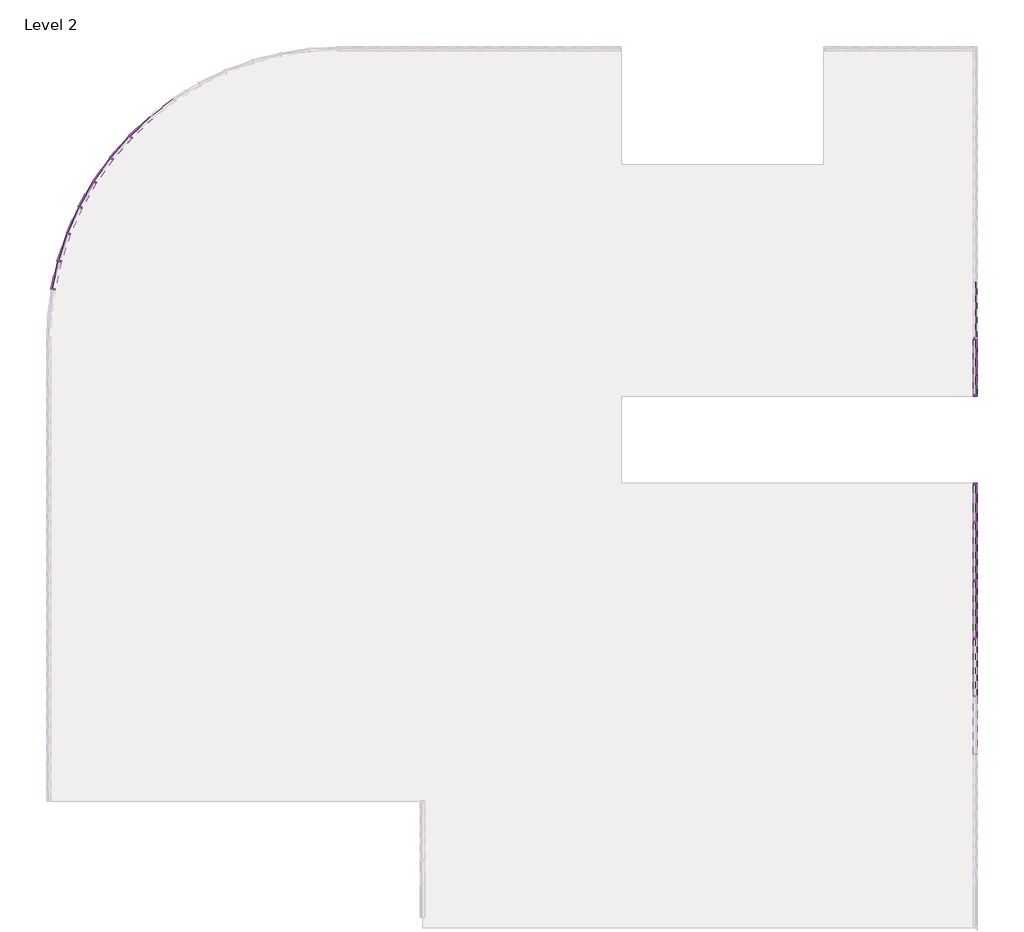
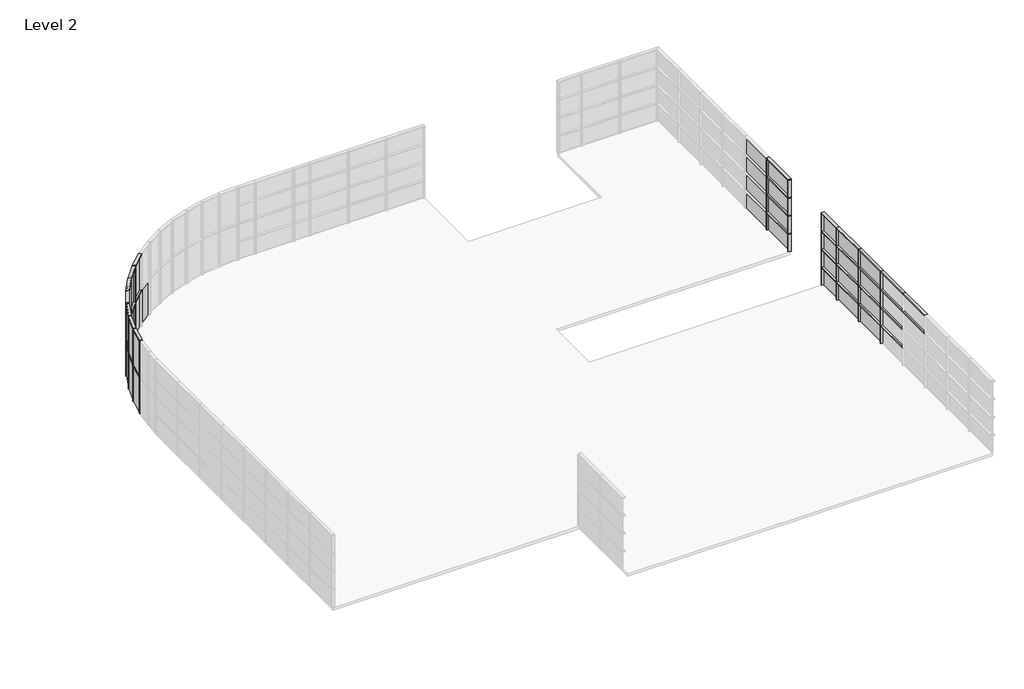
# One storey, part 4 of 6: 74 members, 35 plates.
"""IFC4 building model written with IfcOpenShell, lengths in millimetres."""

from ifc_helpers import new_model, si_unit, origin, place, context, project, spatial, transform, mapped, element, save
from components import rectangular_mullion_50_x_150mm_a053b0ca, rectangular_mullion_50_x_150mm_3a148f0f, rectangular_mullion_50_x_150mm_12a430f9, rectangular_mullion_50_x_150mm_25f32059, rectangular_mullion_50_x_150mm_5fc4eb71, system_panel_glazed_751a585c, system_panel_glazed_08de6f5f, system_panel_glazed_b9387e44, system_panel_glazed_8ec8f306

model = new_model("IFC4")

# Units and contexts
model_context = context("Model", 3, world=origin())
ifc_project = project(units=[si_unit("LENGTHUNIT", "METRE", prefix="MILLI")], contexts=[model_context])

# Site, building, storey
site = spatial("IfcSite", under=ifc_project)
building = spatial("IfcBuilding", under=site)
storey = spatial("IfcBuildingStorey", under=building, Name="Level 2", Elevation=4000.0)

# Members
placement = place(None, origin())
rectangular_mullion_50_x_150mm_shape = rectangular_mullion_50_x_150mm_a053b0ca(model_context)
element("IfcMember", 1, ObjectType="Rectangular Mullion : 50 x 150mm", at=placement, inside=storey, context=model_context, shape_type="MappedRepresentation", body=[
    mapped(rectangular_mullion_50_x_150mm_shape, transform((13503.2660975, -1624.0160434, 6025.0), x_axis=(0.0, 1.0, 0.0), y_axis=(1.0, 0.0, 0.0), z_axis=(0.0, 0.0, -0.9999999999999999))),
])
element("IfcMember", 2, ObjectType="Rectangular Mullion : 50 x 150mm", at=placement, inside=storey, context=model_context, shape_type="MappedRepresentation", body=[
    mapped(rectangular_mullion_50_x_150mm_shape, transform((13503.2660975, -1624.0160434, 7025.0), x_axis=(0.0, 1.0, 0.0), y_axis=(1.0, 0.0, 0.0), z_axis=(0.0, 0.0, -1.0))),
])
element("IfcMember", 3, ObjectType="Rectangular Mullion : 50 x 150mm", at=placement, inside=storey, context=model_context, shape_type="MappedRepresentation", body=[
    mapped(rectangular_mullion_50_x_150mm_shape, transform((13503.2660975, -1624.0160434, 4025.0), x_axis=(0.0, 1.0, 0.0), y_axis=(1.0, 0.0, 0.0), z_axis=(0.0, 0.0, -1.0))),
])
element("IfcMember", 4, ObjectType="Rectangular Mullion : 50 x 150mm", at=placement, inside=storey, context=model_context, shape_type="MappedRepresentation", body=[
    mapped(rectangular_mullion_50_x_150mm_shape, transform((13503.2660975, -1624.0160434, 5025.0), x_axis=(0.0, 1.0, 0.0), y_axis=(1.0, 0.0, 0.0), z_axis=(0.0, 0.0, -0.9999999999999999))),
])
element("IfcMember", 5, ObjectType="Rectangular Mullion : 50 x 150mm", at=placement, inside=storey, context=model_context, shape_type="MappedRepresentation", body=[
    mapped(rectangular_mullion_50_x_150mm_shape, transform((13503.2660975, -11988.7417365, 4025.0), x_axis=(0.0, 1.0, 0.0), y_axis=(1.0, 0.0, 0.0), z_axis=(0.0, 0.0, -1.0))),
])
element("IfcMember", 6, ObjectType="Rectangular Mullion : 50 x 150mm", at=placement, inside=storey, context=model_context, shape_type="MappedRepresentation", body=[
    mapped(rectangular_mullion_50_x_150mm_shape, transform((13503.2660975, -11988.7417365, 5025.0), x_axis=(0.0, 1.0, 0.0), y_axis=(1.0, 0.0, 0.0), z_axis=(0.0, 0.0, -0.9999999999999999))),
])
element("IfcMember", 7, ObjectType="Rectangular Mullion : 50 x 150mm", at=placement, inside=storey, context=model_context, shape_type="MappedRepresentation", body=[
    mapped(rectangular_mullion_50_x_150mm_shape, transform((13503.2660975, -11988.7417365, 6025.0), x_axis=(0.0, 1.0, 0.0), y_axis=(1.0, 0.0, 0.0), z_axis=(0.0, 0.0, -0.9999999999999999))),
])
element("IfcMember", 8, ObjectType="Rectangular Mullion : 50 x 150mm", at=placement, inside=storey, context=model_context, shape_type="MappedRepresentation", body=[
    mapped(rectangular_mullion_50_x_150mm_shape, transform((13503.2660975, -11988.7417365, 7025.0), x_axis=(0.0, 1.0, 0.0), y_axis=(1.0, 0.0, 0.0), z_axis=(0.0, 0.0, -1.0))),
])
element("IfcMember", 9, ObjectType="Rectangular Mullion : 50 x 150mm", at=placement, inside=storey, context=model_context, shape_type="MappedRepresentation", body=[
    mapped(rectangular_mullion_50_x_150mm_shape, transform((13503.2660975, -9988.7417365, 4025.0), x_axis=(0.0, 1.0, 0.0), y_axis=(1.0, 0.0, 0.0), z_axis=(0.0, 0.0, -1.0))),
])
element("IfcMember", 10, ObjectType="Rectangular Mullion : 50 x 150mm", at=placement, inside=storey, context=model_context, shape_type="MappedRepresentation", body=[
    mapped(rectangular_mullion_50_x_150mm_shape, transform((13503.2660975, -9988.7417365, 5025.0), x_axis=(0.0, 1.0, 0.0), y_axis=(1.0, 0.0, 0.0), z_axis=(0.0, 0.0, -0.9999999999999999))),
])
element("IfcMember", 11, ObjectType="Rectangular Mullion : 50 x 150mm", at=placement, inside=storey, context=model_context, shape_type="MappedRepresentation", body=[
    mapped(rectangular_mullion_50_x_150mm_shape, transform((13503.2660975, -9988.7417365, 6025.0), x_axis=(0.0, 1.0, 0.0), y_axis=(1.0, 0.0, 0.0), z_axis=(0.0, 0.0, -0.9999999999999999))),
])
element("IfcMember", 12, ObjectType="Rectangular Mullion : 50 x 150mm", at=placement, inside=storey, context=model_context, shape_type="MappedRepresentation", body=[
    mapped(rectangular_mullion_50_x_150mm_shape, transform((13503.2660975, -9988.7417365, 7025.0), x_axis=(0.0, 1.0, 0.0), y_axis=(1.0, 0.0, 0.0), z_axis=(0.0, 0.0, -1.0))),
])
element("IfcMember", 13, ObjectType="Rectangular Mullion : 50 x 150mm", at=placement, inside=storey, context=model_context, shape_type="MappedRepresentation", body=[
    mapped(rectangular_mullion_50_x_150mm_shape, transform((13503.2660975, -7988.7417365, 4025.0), x_axis=(0.0, 1.0, 0.0), y_axis=(1.0, 0.0, 0.0), z_axis=(0.0, 0.0, -1.0))),
])
element("IfcMember", 14, ObjectType="Rectangular Mullion : 50 x 150mm", at=placement, inside=storey, context=model_context, shape_type="MappedRepresentation", body=[
    mapped(rectangular_mullion_50_x_150mm_shape, transform((13503.2660975, -7988.7417365, 5025.0), x_axis=(0.0, 1.0, 0.0), y_axis=(1.0, 0.0, 0.0), z_axis=(0.0, 0.0, -0.9999999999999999))),
])
element("IfcMember", 15, ObjectType="Rectangular Mullion : 50 x 150mm", at=placement, inside=storey, context=model_context, shape_type="MappedRepresentation", body=[
    mapped(rectangular_mullion_50_x_150mm_shape, transform((13503.2660975, -7988.7417365, 6025.0), x_axis=(0.0, 1.0, 0.0), y_axis=(1.0, 0.0, 0.0), z_axis=(0.0, 0.0, -0.9999999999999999))),
])
element("IfcMember", 16, ObjectType="Rectangular Mullion : 50 x 150mm", at=placement, inside=storey, context=model_context, shape_type="MappedRepresentation", body=[
    mapped(rectangular_mullion_50_x_150mm_shape, transform((13503.2660975, -7988.7417365, 7025.0), x_axis=(0.0, 1.0, 0.0), y_axis=(1.0, 0.0, 0.0), z_axis=(0.0, 0.0, -1.0))),
])
rectangular_mullion_50_x_150mm_2_shape = rectangular_mullion_50_x_150mm_3a148f0f(model_context)
element("IfcMember", 17, ObjectType="Rectangular Mullion : 50 x 150mm", at=placement, inside=storey, context=model_context, shape_type="MappedRepresentation", body=[
    mapped(rectangular_mullion_50_x_150mm_2_shape, transform((13503.2660975, -1624.0160434, 5000.0), x_axis=(0.0, 0.0, 1.0), y_axis=(1.0, 0.0, 0.0), z_axis=(0.0, 1.0, 0.0))),
])
element("IfcMember", 18, ObjectType="Rectangular Mullion : 50 x 150mm", at=placement, inside=storey, context=model_context, shape_type="MappedRepresentation", body=[
    mapped(rectangular_mullion_50_x_150mm_2_shape, transform((13503.2660975, -1624.0160434, 6000.0), x_axis=(0.0, 0.0, 1.0), y_axis=(1.0, 0.0, 0.0), z_axis=(0.0, 0.9999999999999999, 0.0))),
])
element("IfcMember", 19, ObjectType="Rectangular Mullion : 50 x 150mm", at=placement, inside=storey, context=model_context, shape_type="MappedRepresentation", body=[
    mapped(rectangular_mullion_50_x_150mm_2_shape, transform((13503.2660975, -1624.0160434, 7000.0), x_axis=(0.0, 0.0, 1.0), y_axis=(1.0, 0.0, 0.0), z_axis=(0.0, 0.9999999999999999, 0.0))),
])
element("IfcMember", 20, ObjectType="Rectangular Mullion : 50 x 150mm", at=placement, inside=storey, context=model_context, shape_type="MappedRepresentation", body=[
    mapped(rectangular_mullion_50_x_150mm_2_shape, transform((13503.2660975, -1624.0160434, 8000.0), x_axis=(0.0, 0.0, 1.0), y_axis=(1.0, 0.0, 0.0), z_axis=(0.0, 1.0, 0.0))),
])
element("IfcMember", 21, ObjectType="Rectangular Mullion : 50 x 150mm", at=placement, inside=storey, context=model_context, shape_type="MappedRepresentation", body=[
    mapped(rectangular_mullion_50_x_150mm_2_shape, transform((-15672.6193842, 5340.6567811, 4000.0), x_axis=(-0.6964672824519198, -0.7175885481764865, 0.0), y_axis=(-0.7175885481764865, 0.6964672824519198, 0.0), z_axis=(0.0, 0.0, -1.0))),
])
element("IfcMember", 22, ObjectType="Rectangular Mullion : 50 x 150mm", at=placement, inside=storey, context=model_context, shape_type="MappedRepresentation", body=[
    mapped(rectangular_mullion_50_x_150mm_2_shape, transform((-15672.6193842, 5340.6567811, 6000.0), x_axis=(-0.6964672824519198, -0.7175885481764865, 0.0), y_axis=(-0.7175885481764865, 0.6964672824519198, 0.0), z_axis=(0.0, 0.0, -1.0))),
])
element("IfcMember", 23, ObjectType="Rectangular Mullion : 50 x 150mm", at=placement, inside=storey, context=model_context, shape_type="MappedRepresentation", body=[
    mapped(rectangular_mullion_50_x_150mm_2_shape, transform((-16332.3361104, 4589.1424158, 4000.0), x_axis=(-0.6213158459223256, -0.7835602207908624, 0.0), y_axis=(-0.7835602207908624, 0.6213158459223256, 0.0), z_axis=(0.0, 0.0, -1.0))),
])
element("IfcMember", 24, ObjectType="Rectangular Mullion : 50 x 150mm", at=placement, inside=storey, context=model_context, shape_type="MappedRepresentation", body=[
    mapped(rectangular_mullion_50_x_150mm_2_shape, transform((-16332.3361104, 4589.1424158, 6000.0), x_axis=(-0.6213158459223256, -0.7835602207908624, 0.0), y_axis=(-0.7835602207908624, 0.6213158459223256, 0.0), z_axis=(0.0, 0.0, -1.0))),
])
element("IfcMember", 25, ObjectType="Rectangular Mullion : 50 x 150mm", at=placement, inside=storey, context=model_context, shape_type="MappedRepresentation", body=[
    mapped(rectangular_mullion_50_x_150mm_2_shape, transform((-16913.6968144, 3775.4964659, 4000.0), x_axis=(-0.5399512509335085, -0.8416962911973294, 0.0), y_axis=(-0.8416962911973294, 0.5399512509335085, 0.0), z_axis=(0.0, 0.0, -1.0))),
])
element("IfcMember", 26, ObjectType="Rectangular Mullion : 50 x 150mm", at=placement, inside=storey, context=model_context, shape_type="MappedRepresentation", body=[
    mapped(rectangular_mullion_50_x_150mm_2_shape, transform((-16913.6968144, 3775.4964659, 6000.0), x_axis=(-0.5399512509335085, -0.8416962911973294, 0.0), y_axis=(-0.8416962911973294, 0.5399512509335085, 0.0), z_axis=(0.0, 0.0, -1.0))),
])
element("IfcMember", 27, ObjectType="Rectangular Mullion : 50 x 150mm", at=placement, inside=storey, context=model_context, shape_type="MappedRepresentation", body=[
    mapped(rectangular_mullion_50_x_150mm_2_shape, transform((-17410.8878894, 2907.8553909, 4000.0), x_axis=(-0.4531871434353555, -0.8914153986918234, 0.0), y_axis=(-0.8914153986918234, 0.4531871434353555, 0.0), z_axis=(0.0, 0.0, -1.0))),
])
element("IfcMember", 28, ObjectType="Rectangular Mullion : 50 x 150mm", at=placement, inside=storey, context=model_context, shape_type="MappedRepresentation", body=[
    mapped(rectangular_mullion_50_x_150mm_2_shape, transform((-17410.8878894, 2907.8553909, 6000.0), x_axis=(-0.4531871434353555, -0.8914153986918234, 0.0), y_axis=(-0.8914153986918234, 0.4531871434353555, 0.0), z_axis=(0.0, 0.0, -1.0))),
])
element("IfcMember", 29, ObjectType="Rectangular Mullion : 50 x 150mm", at=placement, inside=storey, context=model_context, shape_type="MappedRepresentation", body=[
    mapped(rectangular_mullion_50_x_150mm_2_shape, transform((-17818.9374245, 1994.8956016, 4000.0), x_axis=(-0.3618911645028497, -0.9322203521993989, 0.0), y_axis=(-0.9322203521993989, 0.3618911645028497, 0.0), z_axis=(0.0, 0.0, -1.0))),
])
element("IfcMember", 30, ObjectType="Rectangular Mullion : 50 x 150mm", at=placement, inside=storey, context=model_context, shape_type="MappedRepresentation", body=[
    mapped(rectangular_mullion_50_x_150mm_2_shape, transform((-17818.9374245, 1994.8956016, 6000.0), x_axis=(-0.3618911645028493, -0.932220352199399, 0.0), y_axis=(-0.932220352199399, 0.3618911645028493, 0.0), z_axis=(0.0, 0.0, -1.0))),
])
element("IfcMember", 31, ObjectType="Rectangular Mullion : 50 x 150mm", at=placement, inside=storey, context=model_context, shape_type="MappedRepresentation", body=[
    mapped(rectangular_mullion_50_x_150mm_2_shape, transform((-18133.7649243, 1045.7466958, 4000.0), x_axis=(-0.26697627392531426, -0.963703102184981, 0.0), y_axis=(-0.9637031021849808, 0.2669762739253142, 0.0), z_axis=(0.0, 0.0, -1.0))),
])
element("IfcMember", 32, ObjectType="Rectangular Mullion : 50 x 150mm", at=placement, inside=storey, context=model_context, shape_type="MappedRepresentation", body=[
    mapped(rectangular_mullion_50_x_150mm_2_shape, transform((-18133.7649243, 1045.7466958, 6000.0), x_axis=(-0.2669762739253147, -0.9637031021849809, 0.0), y_axis=(-0.9637031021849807, 0.26697627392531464, 0.0), z_axis=(0.0, 0.0, -1.0))),
])
element("IfcMember", 33, ObjectType="Rectangular Mullion : 50 x 150mm", at=placement, inside=storey, context=model_context, shape_type="MappedRepresentation", body=[
    mapped(rectangular_mullion_50_x_150mm_2_shape, transform((-18352.222114, 69.9001627, 4000.0), x_axis=(-0.1693916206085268, -0.9855488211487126, 0.0), y_axis=(-0.9855488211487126, 0.1693916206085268, 0.0), z_axis=(0.0, 0.0, -1.0))),
])
element("IfcMember", 34, ObjectType="Rectangular Mullion : 50 x 150mm", at=placement, inside=storey, context=model_context, shape_type="MappedRepresentation", body=[
    mapped(rectangular_mullion_50_x_150mm_2_shape, transform((-18352.222114, 69.9001627, 6000.0), x_axis=(-0.1693916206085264, -0.9855488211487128, 0.0), y_axis=(-0.9855488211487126, 0.16939162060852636, 0.0), z_axis=(0.0, 0.0, -1.0))),
])
element("IfcMember", 35, ObjectType="Rectangular Mullion : 50 x 150mm", at=placement, inside=storey, context=model_context, shape_type="MappedRepresentation", body=[
    mapped(rectangular_mullion_50_x_150mm_2_shape, transform((13503.2660975, -11988.7417365, 5000.0), x_axis=(0.0, 0.0, 1.0), y_axis=(1.0, 0.0, 0.0), z_axis=(0.0, 1.0, 0.0))),
])
element("IfcMember", 36, ObjectType="Rectangular Mullion : 50 x 150mm", at=placement, inside=storey, context=model_context, shape_type="MappedRepresentation", body=[
    mapped(rectangular_mullion_50_x_150mm_2_shape, transform((13503.2660975, -9988.7417365, 5000.0), x_axis=(0.0, 0.0, 1.0), y_axis=(1.0, 0.0, 0.0), z_axis=(0.0, 1.0, 0.0))),
])
element("IfcMember", 37, ObjectType="Rectangular Mullion : 50 x 150mm", at=placement, inside=storey, context=model_context, shape_type="MappedRepresentation", body=[
    mapped(rectangular_mullion_50_x_150mm_2_shape, transform((13503.2660975, -7988.7417365, 5000.0), x_axis=(0.0, 0.0, 1.0), y_axis=(1.0, 0.0, 0.0), z_axis=(0.0, 1.0, 0.0))),
])
element("IfcMember", 38, ObjectType="Rectangular Mullion : 50 x 150mm", at=placement, inside=storey, context=model_context, shape_type="MappedRepresentation", body=[
    mapped(rectangular_mullion_50_x_150mm_2_shape, transform((13503.2660975, -11988.7417365, 6000.0), x_axis=(0.0, 0.0, 1.0), y_axis=(1.0, 0.0, 0.0), z_axis=(0.0, 1.0, 0.0))),
])
element("IfcMember", 39, ObjectType="Rectangular Mullion : 50 x 150mm", at=placement, inside=storey, context=model_context, shape_type="MappedRepresentation", body=[
    mapped(rectangular_mullion_50_x_150mm_2_shape, transform((13503.2660975, -9988.7417365, 6000.0), x_axis=(0.0, 0.0, 1.0), y_axis=(1.0, 0.0, 0.0), z_axis=(0.0, 1.0, 0.0))),
])
element("IfcMember", 40, ObjectType="Rectangular Mullion : 50 x 150mm", at=placement, inside=storey, context=model_context, shape_type="MappedRepresentation", body=[
    mapped(rectangular_mullion_50_x_150mm_2_shape, transform((13503.2660975, -7988.7417365, 6000.0), x_axis=(0.0, 0.0, 1.0), y_axis=(1.0, 0.0, 0.0), z_axis=(0.0, 1.0, 0.0))),
])
element("IfcMember", 41, ObjectType="Rectangular Mullion : 50 x 150mm", at=placement, inside=storey, context=model_context, shape_type="MappedRepresentation", body=[
    mapped(rectangular_mullion_50_x_150mm_2_shape, transform((13503.2660975, -13988.7417365, 7000.0), x_axis=(0.0, 0.0, 1.0), y_axis=(1.0, 0.0, 0.0), z_axis=(0.0, 1.0, 0.0))),
])
element("IfcMember", 42, ObjectType="Rectangular Mullion : 50 x 150mm", at=placement, inside=storey, context=model_context, shape_type="MappedRepresentation", body=[
    mapped(rectangular_mullion_50_x_150mm_2_shape, transform((13503.2660975, -11988.7417365, 7000.0), x_axis=(0.0, 0.0, 1.0), y_axis=(1.0, 0.0, 0.0), z_axis=(0.0, 1.0, 0.0))),
])
element("IfcMember", 43, ObjectType="Rectangular Mullion : 50 x 150mm", at=placement, inside=storey, context=model_context, shape_type="MappedRepresentation", body=[
    mapped(rectangular_mullion_50_x_150mm_2_shape, transform((13503.2660975, -9988.7417365, 7000.0), x_axis=(0.0, 0.0, 1.0), y_axis=(1.0, 0.0, 0.0), z_axis=(0.0, 1.0, 0.0))),
])
element("IfcMember", 44, ObjectType="Rectangular Mullion : 50 x 150mm", at=placement, inside=storey, context=model_context, shape_type="MappedRepresentation", body=[
    mapped(rectangular_mullion_50_x_150mm_2_shape, transform((13503.2660975, -7988.7417365, 7000.0), x_axis=(0.0, 0.0, 1.0), y_axis=(1.0, 0.0, 0.0), z_axis=(0.0, 1.0, 0.0))),
])
element("IfcMember", 45, ObjectType="Rectangular Mullion : 50 x 150mm", at=placement, inside=storey, context=model_context, shape_type="MappedRepresentation", body=[
    mapped(rectangular_mullion_50_x_150mm_2_shape, transform((13503.2660975, -13988.7417365, 8000.0), x_axis=(0.0, 0.0, 1.0), y_axis=(1.0, 0.0, 0.0), z_axis=(0.0, 1.0, 0.0))),
])
element("IfcMember", 46, ObjectType="Rectangular Mullion : 50 x 150mm", at=placement, inside=storey, context=model_context, shape_type="MappedRepresentation", body=[
    mapped(rectangular_mullion_50_x_150mm_2_shape, transform((13503.2660975, -11988.7417365, 8000.0), x_axis=(0.0, 0.0, 1.0), y_axis=(1.0, 0.0, 0.0), z_axis=(0.0, 1.0, 0.0))),
])
element("IfcMember", 47, ObjectType="Rectangular Mullion : 50 x 150mm", at=placement, inside=storey, context=model_context, shape_type="MappedRepresentation", body=[
    mapped(rectangular_mullion_50_x_150mm_2_shape, transform((13503.2660975, -9988.7417365, 8000.0), x_axis=(0.0, 0.0, 1.0), y_axis=(1.0, 0.0, 0.0), z_axis=(0.0, 1.0, 0.0))),
])
element("IfcMember", 48, ObjectType="Rectangular Mullion : 50 x 150mm", at=placement, inside=storey, context=model_context, shape_type="MappedRepresentation", body=[
    mapped(rectangular_mullion_50_x_150mm_2_shape, transform((13503.2660975, -7988.7417365, 8000.0), x_axis=(0.0, 0.0, 1.0), y_axis=(1.0, 0.0, 0.0), z_axis=(0.0, 1.0, 0.0))),
])
rectangular_mullion_50_x_150mm_3_shape = rectangular_mullion_50_x_150mm_12a430f9(model_context)
element("IfcMember", 49, ObjectType="Rectangular Mullion : 50 x 150mm", at=placement, inside=storey, context=model_context, shape_type="MappedRepresentation", body=[
    mapped(rectangular_mullion_50_x_150mm_3_shape, transform((13503.2660975, -3624.0160434, 4975.0), x_axis=(0.0, -1.0, 0.0), y_axis=(1.0, 0.0, 0.0), z_axis=(0.0, 0.0, 1.0))),
])
element("IfcMember", 50, ObjectType="Rectangular Mullion : 50 x 150mm", at=placement, inside=storey, context=model_context, shape_type="MappedRepresentation", body=[
    mapped(rectangular_mullion_50_x_150mm_3_shape, transform((13503.2660975, -3624.0160434, 5975.0), x_axis=(0.0, -1.0, 0.0), y_axis=(1.0, 0.0, 0.0), z_axis=(0.0, 0.0, 0.9999999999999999))),
])
element("IfcMember", 51, ObjectType="Rectangular Mullion : 50 x 150mm", at=placement, inside=storey, context=model_context, shape_type="MappedRepresentation", body=[
    mapped(rectangular_mullion_50_x_150mm_3_shape, transform((13503.2660975, -3624.0160434, 6975.0), x_axis=(0.0, -1.0, 0.0), y_axis=(1.0, 0.0, 0.0), z_axis=(0.0, 0.0, 0.9999999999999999))),
])
element("IfcMember", 52, ObjectType="Rectangular Mullion : 50 x 150mm", at=placement, inside=storey, context=model_context, shape_type="MappedRepresentation", body=[
    mapped(rectangular_mullion_50_x_150mm_3_shape, transform((13503.2660975, -3624.0160434, 7975.0), x_axis=(0.0, -1.0, 0.0), y_axis=(1.0, 0.0, 0.0), z_axis=(0.0, 0.0, 1.0))),
])
element("IfcMember", 53, ObjectType="Rectangular Mullion : 50 x 150mm", at=placement, inside=storey, context=model_context, shape_type="MappedRepresentation", body=[
    mapped(rectangular_mullion_50_x_150mm_3_shape, transform((13503.2660975, -6624.0160434, 4025.0), x_axis=(0.0, 1.0, 0.0), y_axis=(1.0, 0.0, 0.0), z_axis=(0.0, 0.0, -1.0))),
])
element("IfcMember", 54, ObjectType="Rectangular Mullion : 50 x 150mm", at=placement, inside=storey, context=model_context, shape_type="MappedRepresentation", body=[
    mapped(rectangular_mullion_50_x_150mm_3_shape, transform((13503.2660975, -6624.0160434, 5025.0), x_axis=(0.0, 1.0, 0.0), y_axis=(1.0, 0.0, 0.0), z_axis=(0.0, 0.0, -0.9999999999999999))),
])
element("IfcMember", 55, ObjectType="Rectangular Mullion : 50 x 150mm", at=placement, inside=storey, context=model_context, shape_type="MappedRepresentation", body=[
    mapped(rectangular_mullion_50_x_150mm_3_shape, transform((13503.2660975, -6624.0160434, 6025.0), x_axis=(0.0, 1.0, 0.0), y_axis=(1.0, 0.0, 0.0), z_axis=(0.0, 0.0, -0.9999999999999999))),
])
element("IfcMember", 56, ObjectType="Rectangular Mullion : 50 x 150mm", at=placement, inside=storey, context=model_context, shape_type="MappedRepresentation", body=[
    mapped(rectangular_mullion_50_x_150mm_3_shape, transform((13503.2660975, -6624.0160434, 7025.0), x_axis=(0.0, 1.0, 0.0), y_axis=(1.0, 0.0, 0.0), z_axis=(0.0, 0.0, -1.0))),
])
rectangular_mullion_50_x_150mm_4_shape = rectangular_mullion_50_x_150mm_25f32059(model_context)
element("IfcMember", 57, ObjectType="Rectangular Mullion : 50 x 150mm", at=placement, inside=storey, context=model_context, shape_type="MappedRepresentation", body=[
    mapped(rectangular_mullion_50_x_150mm_4_shape, transform((-17808.7361861, 2017.7195963, 8000.0), x_axis=(0.0, 0.0, 1.0), y_axis=(-0.9129597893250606, 0.4080495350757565, 0.0), z_axis=(-0.4080495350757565, -0.9129597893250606, 0.0))),
])
element("IfcMember", 58, ObjectType="Rectangular Mullion : 50 x 150mm", at=placement, inside=storey, context=model_context, shape_type="MappedRepresentation", body=[
    mapped(rectangular_mullion_50_x_150mm_4_shape, transform((-18125.8942368, 1069.4754185, 8000.0), x_axis=(0.0, 0.0, 1.0), y_axis=(-0.9491489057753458, 0.31482749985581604, 0.0), z_axis=(-0.314827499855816, -0.9491489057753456, 0.0))),
])
element("IfcMember", 59, ObjectType="Rectangular Mullion : 50 x 150mm", at=placement, inside=storey, context=model_context, shape_type="MappedRepresentation", body=[
    mapped(rectangular_mullion_50_x_150mm_4_shape, transform((-18346.7606842, 94.296326, 8000.0), x_axis=(0.0, 0.0, 1.0), y_axis=(-0.9758465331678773, 0.21845718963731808, 0.0), z_axis=(-0.21845718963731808, -0.9758465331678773, 0.0))),
])
element("IfcMember", 60, ObjectType="Rectangular Mullion : 50 x 150mm", at=placement, inside=storey, context=model_context, shape_type="MappedRepresentation", body=[
    mapped(rectangular_mullion_50_x_150mm_4_shape, transform((-15654.3324947, 5357.703472, 8000.0), x_axis=(0.0, 0.0, 1.0), y_axis=(-0.6818676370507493, 0.731475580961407, 0.0), z_axis=(-0.731475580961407, -0.6818676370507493, 0.0))),
])
element("IfcMember", 61, ObjectType="Rectangular Mullion : 50 x 150mm", at=placement, inside=storey, context=model_context, shape_type="MappedRepresentation", body=[
    mapped(rectangular_mullion_50_x_150mm_4_shape, transform((-16315.8431922, 4607.9302749, 8000.0), x_axis=(0.0, 0.0, 1.0), y_axis=(-0.7515143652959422, 0.6597167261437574, 0.0), z_axis=(-0.6597167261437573, -0.751514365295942, 0.0))),
])
element("IfcMember", 62, ObjectType="Rectangular Mullion : 50 x 150mm", at=placement, inside=storey, context=model_context, shape_type="MappedRepresentation", body=[
    mapped(rectangular_mullion_50_x_150mm_4_shape, transform((-16899.1627968, 3795.8376146, 8000.0), x_axis=(0.0, 0.0, 1.0), y_axis=(-0.8136459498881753, 0.5813607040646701, 0.0), z_axis=(-0.5813607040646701, -0.8136459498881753, 0.0))),
])
element("IfcMember", 63, ObjectType="Rectangular Mullion : 50 x 150mm", at=placement, inside=storey, context=model_context, shape_type="MappedRepresentation", body=[
    mapped(rectangular_mullion_50_x_150mm_4_shape, transform((-17398.4581125, 2929.5464178, 8000.0), x_axis=(0.0, 0.0, 0.9999999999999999), y_axis=(-0.8676410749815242, 0.49719107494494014, 0.0), z_axis=(-0.4971910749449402, -0.8676410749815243, 0.0))),
])
element("IfcMember", 64, ObjectType="Rectangular Mullion : 50 x 150mm", at=placement, inside=storey, context=model_context, shape_type="MappedRepresentation", body=[
    mapped(rectangular_mullion_50_x_150mm_4_shape, transform((-15654.3324947, 5357.703472, 6000.0), x_axis=(0.0, 0.0, 1.0), y_axis=(-0.6818676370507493, 0.731475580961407, 0.0), z_axis=(-0.731475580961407, -0.6818676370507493, 0.0))),
])
element("IfcMember", 65, ObjectType="Rectangular Mullion : 50 x 150mm", at=placement, inside=storey, context=model_context, shape_type="MappedRepresentation", body=[
    mapped(rectangular_mullion_50_x_150mm_4_shape, transform((-16315.8431922, 4607.9302749, 6000.0), x_axis=(0.0, 0.0, 1.0), y_axis=(-0.7515143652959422, 0.6597167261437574, 0.0), z_axis=(-0.6597167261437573, -0.751514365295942, 0.0))),
])
element("IfcMember", 66, ObjectType="Rectangular Mullion : 50 x 150mm", at=placement, inside=storey, context=model_context, shape_type="MappedRepresentation", body=[
    mapped(rectangular_mullion_50_x_150mm_4_shape, transform((-16899.1627968, 3795.8376146, 6000.0), x_axis=(0.0, 0.0, 1.0), y_axis=(-0.8136459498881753, 0.5813607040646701, 0.0), z_axis=(-0.5813607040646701, -0.8136459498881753, 0.0))),
])
element("IfcMember", 67, ObjectType="Rectangular Mullion : 50 x 150mm", at=placement, inside=storey, context=model_context, shape_type="MappedRepresentation", body=[
    mapped(rectangular_mullion_50_x_150mm_4_shape, transform((-17398.4581125, 2929.5464178, 6000.0), x_axis=(0.0, 0.0, 0.9999999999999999), y_axis=(-0.8676410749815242, 0.49719107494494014, 0.0), z_axis=(-0.4971910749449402, -0.8676410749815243, 0.0))),
])
element("IfcMember", 68, ObjectType="Rectangular Mullion : 50 x 150mm", at=placement, inside=storey, context=model_context, shape_type="MappedRepresentation", body=[
    mapped(rectangular_mullion_50_x_150mm_4_shape, transform((-17808.7361861, 2017.7195963, 6000.0), x_axis=(0.0, 0.0, 1.0), y_axis=(-0.9129597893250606, 0.4080495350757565, 0.0), z_axis=(-0.4080495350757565, -0.9129597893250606, 0.0))),
])
element("IfcMember", 69, ObjectType="Rectangular Mullion : 50 x 150mm", at=placement, inside=storey, context=model_context, shape_type="MappedRepresentation", body=[
    mapped(rectangular_mullion_50_x_150mm_4_shape, transform((-18125.8942368, 1069.4754185, 6000.0), x_axis=(0.0, 0.0, 1.0), y_axis=(-0.9491489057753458, 0.31482749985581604, 0.0), z_axis=(-0.314827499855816, -0.9491489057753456, 0.0))),
])
element("IfcMember", 70, ObjectType="Rectangular Mullion : 50 x 150mm", at=placement, inside=storey, context=model_context, shape_type="MappedRepresentation", body=[
    mapped(rectangular_mullion_50_x_150mm_4_shape, transform((-18346.7606842, 94.296326, 6000.0), x_axis=(0.0, 0.0, 1.0), y_axis=(-0.9758465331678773, 0.21845718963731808, 0.0), z_axis=(-0.21845718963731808, -0.9758465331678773, 0.0))),
])
rectangular_mullion_50_x_150mm_5_shape = rectangular_mullion_50_x_150mm_5fc4eb71(model_context)
element("IfcMember", 71, ObjectType="Rectangular Mullion : 50 x 150mm", at=placement, inside=storey, context=model_context, shape_type="MappedRepresentation", body=[
    mapped(rectangular_mullion_50_x_150mm_5_shape, transform((13503.2660975, -6624.0160434, 6000.0), x_axis=(0.0, 0.0, 1.0), y_axis=(1.0, 0.0, 0.0), z_axis=(0.0, 1.0, 0.0))),
])
element("IfcMember", 72, ObjectType="Rectangular Mullion : 50 x 150mm", at=placement, inside=storey, context=model_context, shape_type="MappedRepresentation", body=[
    mapped(rectangular_mullion_50_x_150mm_5_shape, transform((13503.2660975, -6624.0160434, 7000.0), x_axis=(0.0, 0.0, 1.0), y_axis=(1.0, 0.0, 0.0), z_axis=(0.0, 1.0, 0.0))),
])
element("IfcMember", 73, ObjectType="Rectangular Mullion : 50 x 150mm", at=placement, inside=storey, context=model_context, shape_type="MappedRepresentation", body=[
    mapped(rectangular_mullion_50_x_150mm_5_shape, transform((13503.2660975, -6624.0160434, 8000.0), x_axis=(0.0, 0.0, 1.0), y_axis=(1.0, 0.0, 0.0), z_axis=(0.0, 1.0, 0.0))),
])
element("IfcMember", 74, ObjectType="Rectangular Mullion : 50 x 150mm", at=placement, inside=storey, context=model_context, shape_type="MappedRepresentation", body=[
    mapped(rectangular_mullion_50_x_150mm_5_shape, transform((13503.2660975, -6624.0160434, 5000.0), x_axis=(0.0, 0.0, 1.0), y_axis=(1.0, 0.0, 0.0), z_axis=(0.0, 1.0, 0.0))),
])

# Plates
system_panel_glazed_shape = system_panel_glazed_751a585c(model_context)
element("IfcPlate", 75, ObjectType="System Panel : Glazed", at=placement, inside=storey, context=model_context, shape_type="MappedRepresentation", body=[
    mapped(system_panel_glazed_shape, transform((13503.2660975, -3574.0160434, 4500.0), x_axis=(0.0, 0.0, 1.0), y_axis=(1.0, 0.0, 0.0), z_axis=(0.0, 1.0, 0.0))),
])
element("IfcPlate", 76, ObjectType="System Panel : Glazed", at=placement, inside=storey, context=model_context, shape_type="MappedRepresentation", body=[
    mapped(system_panel_glazed_shape, transform((13503.2660975, -3574.0160434, 5500.0), x_axis=(0.0, 0.0, 1.0), y_axis=(1.0, 0.0, 0.0), z_axis=(0.0, 1.0, 0.0))),
])
element("IfcPlate", 77, ObjectType="System Panel : Glazed", at=placement, inside=storey, context=model_context, shape_type="MappedRepresentation", body=[
    mapped(system_panel_glazed_shape, transform((13503.2660975, -3574.0160434, 6500.0), x_axis=(0.0, 0.0, 1.0), y_axis=(1.0, 0.0, 0.0), z_axis=(0.0, 1.0, 0.0))),
])
element("IfcPlate", 78, ObjectType="System Panel : Glazed", at=placement, inside=storey, context=model_context, shape_type="MappedRepresentation", body=[
    mapped(system_panel_glazed_shape, transform((13503.2660975, -3574.0160434, 7500.0), x_axis=(0.0, 0.0, 1.0), y_axis=(1.0, 0.0, 0.0), z_axis=(0.0, 1.0, 0.0))),
])
system_panel_glazed_2_shape = system_panel_glazed_08de6f5f(model_context)
element("IfcPlate", 79, ObjectType="System Panel : Glazed", at=placement, inside=storey, context=model_context, shape_type="MappedRepresentation", body=[
    mapped(system_panel_glazed_2_shape, transform((13503.2660975, -11963.7417365, 4500.0), x_axis=(0.0, 0.0, 1.0), y_axis=(1.0, 0.0, 0.0), z_axis=(0.0, 1.0, 0.0))),
])
element("IfcPlate", 80, ObjectType="System Panel : Glazed", at=placement, inside=storey, context=model_context, shape_type="MappedRepresentation", body=[
    mapped(system_panel_glazed_2_shape, transform((13503.2660975, -11963.7417365, 5500.0), x_axis=(0.0, 0.0, 1.0), y_axis=(1.0, 0.0, 0.0), z_axis=(0.0, 1.0, 0.0))),
])
element("IfcPlate", 81, ObjectType="System Panel : Glazed", at=placement, inside=storey, context=model_context, shape_type="MappedRepresentation", body=[
    mapped(system_panel_glazed_2_shape, transform((13503.2660975, -11963.7417365, 6500.0), x_axis=(0.0, 0.0, 1.0), y_axis=(1.0, 0.0, 0.0), z_axis=(0.0, 1.0, 0.0))),
])
element("IfcPlate", 82, ObjectType="System Panel : Glazed", at=placement, inside=storey, context=model_context, shape_type="MappedRepresentation", body=[
    mapped(system_panel_glazed_2_shape, transform((13503.2660975, -11963.7417365, 7500.0), x_axis=(0.0, 0.0, 1.0), y_axis=(1.0, 0.0, 0.0), z_axis=(0.0, 1.0, 0.0))),
])
element("IfcPlate", 83, ObjectType="System Panel : Glazed", at=placement, inside=storey, context=model_context, shape_type="MappedRepresentation", body=[
    mapped(system_panel_glazed_2_shape, transform((13503.2660975, -9963.7417365, 4500.0), x_axis=(0.0, 0.0, 1.0), y_axis=(1.0, 0.0, 0.0), z_axis=(0.0, 1.0, 0.0))),
])
element("IfcPlate", 84, ObjectType="System Panel : Glazed", at=placement, inside=storey, context=model_context, shape_type="MappedRepresentation", body=[
    mapped(system_panel_glazed_2_shape, transform((13503.2660975, -9963.7417365, 5500.0), x_axis=(0.0, 0.0, 1.0), y_axis=(1.0, 0.0, 0.0), z_axis=(0.0, 1.0, 0.0))),
])
element("IfcPlate", 85, ObjectType="System Panel : Glazed", at=placement, inside=storey, context=model_context, shape_type="MappedRepresentation", body=[
    mapped(system_panel_glazed_2_shape, transform((13503.2660975, -9963.7417365, 6500.0), x_axis=(0.0, 0.0, 1.0), y_axis=(1.0, 0.0, 0.0), z_axis=(0.0, 1.0, 0.0))),
])
element("IfcPlate", 86, ObjectType="System Panel : Glazed", at=placement, inside=storey, context=model_context, shape_type="MappedRepresentation", body=[
    mapped(system_panel_glazed_2_shape, transform((13503.2660975, -9963.7417365, 7500.0), x_axis=(0.0, 0.0, 1.0), y_axis=(1.0, 0.0, 0.0), z_axis=(0.0, 1.0, 0.0))),
])
element("IfcPlate", 87, ObjectType="System Panel : Glazed", at=placement, inside=storey, context=model_context, shape_type="MappedRepresentation", body=[
    mapped(system_panel_glazed_2_shape, transform((13503.2660975, -1599.0160434, 4500.0), x_axis=(0.0, 0.0, 1.0), y_axis=(1.0, 0.0, 0.0), z_axis=(0.0, 1.0, 0.0))),
])
element("IfcPlate", 88, ObjectType="System Panel : Glazed", at=placement, inside=storey, context=model_context, shape_type="MappedRepresentation", body=[
    mapped(system_panel_glazed_2_shape, transform((13503.2660975, -1599.0160434, 5500.0), x_axis=(0.0, 0.0, 1.0), y_axis=(1.0, 0.0, 0.0), z_axis=(0.0, 1.0, 0.0))),
])
element("IfcPlate", 89, ObjectType="System Panel : Glazed", at=placement, inside=storey, context=model_context, shape_type="MappedRepresentation", body=[
    mapped(system_panel_glazed_2_shape, transform((13503.2660975, -1599.0160434, 6500.0), x_axis=(0.0, 0.0, 1.0), y_axis=(1.0, 0.0, 0.0), z_axis=(0.0, 1.0, 0.0))),
])
element("IfcPlate", 90, ObjectType="System Panel : Glazed", at=placement, inside=storey, context=model_context, shape_type="MappedRepresentation", body=[
    mapped(system_panel_glazed_2_shape, transform((13503.2660975, -1599.0160434, 7500.0), x_axis=(0.0, 0.0, 1.0), y_axis=(1.0, 0.0, 0.0), z_axis=(0.0, 1.0, 0.0))),
])
system_panel_glazed_3_shape = system_panel_glazed_b9387e44(model_context)
element("IfcPlate", 91, ObjectType="System Panel : Glazed", at=placement, inside=storey, context=model_context, shape_type="MappedRepresentation", body=[
    mapped(system_panel_glazed_3_shape, transform((-14543.1839633, 6325.2255344, 4025.0), x_axis=(-0.7959196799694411, -0.6054022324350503, 0.0), y_axis=(0.6054022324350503, -0.7959196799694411, 0.0), z_axis=(0.0, 0.0, 1.0))),
])
element("IfcPlate", 92, ObjectType="System Panel : Glazed", at=placement, inside=storey, context=model_context, shape_type="MappedRepresentation", body=[
    mapped(system_panel_glazed_3_shape, transform((-15306.8815938, 5681.5905996, 4025.0), x_axis=(-0.731475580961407, -0.6818676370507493, 0.0), y_axis=(0.6818676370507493, -0.731475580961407, 0.0), z_axis=(0.0, 0.0, 1.0))),
])
element("IfcPlate", 93, ObjectType="System Panel : Glazed", at=placement, inside=storey, context=model_context, shape_type="MappedRepresentation", body=[
    mapped(system_panel_glazed_3_shape, transform((-15306.8815938, 5681.5905996, 6025.0), x_axis=(-0.731475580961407, -0.6818676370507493, 0.0), y_axis=(0.6818676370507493, -0.731475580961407, 0.0), z_axis=(0.0, 0.0, 1.0))),
])
element("IfcPlate", 94, ObjectType="System Panel : Glazed", at=placement, inside=storey, context=model_context, shape_type="MappedRepresentation", body=[
    mapped(system_panel_glazed_3_shape, transform((-16002.4777473, 4964.8995984, 4025.0), x_axis=(-0.6597167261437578, -0.7515143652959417, 0.0), y_axis=(0.7515143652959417, -0.6597167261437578, 0.0), z_axis=(0.0, 0.0, 1.0))),
])
element("IfcPlate", 95, ObjectType="System Panel : Glazed", at=placement, inside=storey, context=model_context, shape_type="MappedRepresentation", body=[
    mapped(system_panel_glazed_3_shape, transform((-16002.4777473, 4964.8995984, 6025.0), x_axis=(-0.6597167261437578, -0.7515143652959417, 0.0), y_axis=(0.7515143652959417, -0.6597167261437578, 0.0), z_axis=(0.0, 0.0, 1.0))),
])
element("IfcPlate", 96, ObjectType="System Panel : Glazed", at=placement, inside=storey, context=model_context, shape_type="MappedRepresentation", body=[
    mapped(system_panel_glazed_3_shape, transform((-16623.0164624, 4182.3194408, 4025.0), x_axis=(-0.5813607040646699, -0.8136459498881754, 0.0), y_axis=(0.8136459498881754, -0.5813607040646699, 0.0), z_axis=(0.0, 0.0, 1.0))),
])
element("IfcPlate", 97, ObjectType="System Panel : Glazed", at=placement, inside=storey, context=model_context, shape_type="MappedRepresentation", body=[
    mapped(system_panel_glazed_3_shape, transform((-16623.0164624, 4182.3194408, 6025.0), x_axis=(-0.5813607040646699, -0.8136459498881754, 0.0), y_axis=(0.8136459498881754, -0.5813607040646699, 0.0), z_axis=(0.0, 0.0, 1.0))),
])
element("IfcPlate", 98, ObjectType="System Panel : Glazed", at=placement, inside=storey, context=model_context, shape_type="MappedRepresentation", body=[
    mapped(system_panel_glazed_3_shape, transform((-17162.2923519, 3341.6759284, 4025.0), x_axis=(-0.49719107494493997, -0.8676410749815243, 0.0), y_axis=(0.8676410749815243, -0.49719107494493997, 0.0), z_axis=(0.0, 0.0, 1.0))),
])
element("IfcPlate", 99, ObjectType="System Panel : Glazed", at=placement, inside=storey, context=model_context, shape_type="MappedRepresentation", body=[
    mapped(system_panel_glazed_3_shape, transform((-17162.2923519, 3341.6759284, 6025.0), x_axis=(-0.49719107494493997, -0.8676410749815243, 0.0), y_axis=(0.8676410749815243, -0.49719107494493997, 0.0), z_axis=(0.0, 0.0, 1.0))),
])
element("IfcPlate", 100, ObjectType="System Panel : Glazed", at=placement, inside=storey, context=model_context, shape_type="MappedRepresentation", body=[
    mapped(system_panel_glazed_3_shape, transform((-17614.9126569, 2451.3754963, 4025.0), x_axis=(-0.4080495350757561, -0.9129597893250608, 0.0), y_axis=(0.9129597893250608, -0.4080495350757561, 0.0), z_axis=(0.0, 0.0, 1.0))),
])
element("IfcPlate", 101, ObjectType="System Panel : Glazed", at=placement, inside=storey, context=model_context, shape_type="MappedRepresentation", body=[
    mapped(system_panel_glazed_3_shape, transform((-17614.9126569, 2451.3754963, 6025.0), x_axis=(-0.4080495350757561, -0.9129597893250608, 0.0), y_axis=(0.9129597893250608, -0.4080495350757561, 0.0), z_axis=(0.0, 0.0, 1.0))),
])
element("IfcPlate", 102, ObjectType="System Panel : Glazed", at=placement, inside=storey, context=model_context, shape_type="MappedRepresentation", body=[
    mapped(system_panel_glazed_3_shape, transform((-17976.3511744, 1520.3211487, 4025.0), x_axis=(-0.3148274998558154, -0.9491489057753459, 0.0), y_axis=(0.9491489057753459, -0.3148274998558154, 0.0), z_axis=(0.0, 0.0, 1.0))),
])
element("IfcPlate", 103, ObjectType="System Panel : Glazed", at=placement, inside=storey, context=model_context, shape_type="MappedRepresentation", body=[
    mapped(system_panel_glazed_3_shape, transform((-17976.3511744, 1520.3211487, 6025.0), x_axis=(-0.3148274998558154, -0.9491489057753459, 0.0), y_axis=(0.9491489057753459, -0.3148274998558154, 0.0), z_axis=(0.0, 0.0, 1.0))),
])
element("IfcPlate", 104, ObjectType="System Panel : Glazed", at=placement, inside=storey, context=model_context, shape_type="MappedRepresentation", body=[
    mapped(system_panel_glazed_3_shape, transform((-18242.9935191, 557.8234292, 4025.0), x_axis=(-0.2184571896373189, -0.9758465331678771, 0.0), y_axis=(0.9758465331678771, -0.2184571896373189, 0.0), z_axis=(0.0, 0.0, 1.0))),
])
element("IfcPlate", 105, ObjectType="System Panel : Glazed", at=placement, inside=storey, context=model_context, shape_type="MappedRepresentation", body=[
    mapped(system_panel_glazed_3_shape, transform((-18242.9935191, 557.8234292, 6025.0), x_axis=(-0.2184571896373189, -0.9758465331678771, 0.0), y_axis=(0.9758465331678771, -0.2184571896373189, 0.0), z_axis=(0.0, 0.0, 1.0))),
])
system_panel_glazed_4_shape = system_panel_glazed_8ec8f306(model_context)
element("IfcPlate", 106, ObjectType="System Panel : Glazed", at=placement, inside=storey, context=model_context, shape_type="MappedRepresentation", body=[
    mapped(system_panel_glazed_4_shape, transform((13503.2660975, -7963.7417365, 4500.0), x_axis=(0.0, 0.0, 1.0), y_axis=(1.0, 0.0, 0.0), z_axis=(0.0, 1.0, 0.0))),
])
element("IfcPlate", 107, ObjectType="System Panel : Glazed", at=placement, inside=storey, context=model_context, shape_type="MappedRepresentation", body=[
    mapped(system_panel_glazed_4_shape, transform((13503.2660975, -7963.7417365, 5500.0), x_axis=(0.0, 0.0, 1.0), y_axis=(1.0, 0.0, 0.0), z_axis=(0.0, 1.0, 0.0))),
])
element("IfcPlate", 108, ObjectType="System Panel : Glazed", at=placement, inside=storey, context=model_context, shape_type="MappedRepresentation", body=[
    mapped(system_panel_glazed_4_shape, transform((13503.2660975, -7963.7417365, 6500.0), x_axis=(0.0, 0.0, 1.0), y_axis=(1.0, 0.0, 0.0), z_axis=(0.0, 1.0, 0.0))),
])
element("IfcPlate", 109, ObjectType="System Panel : Glazed", at=placement, inside=storey, context=model_context, shape_type="MappedRepresentation", body=[
    mapped(system_panel_glazed_4_shape, transform((13503.2660975, -7963.7417365, 7500.0), x_axis=(0.0, 0.0, 1.0), y_axis=(1.0, 0.0, 0.0), z_axis=(0.0, 1.0, 0.0))),
])

save(model, "model.ifc")
